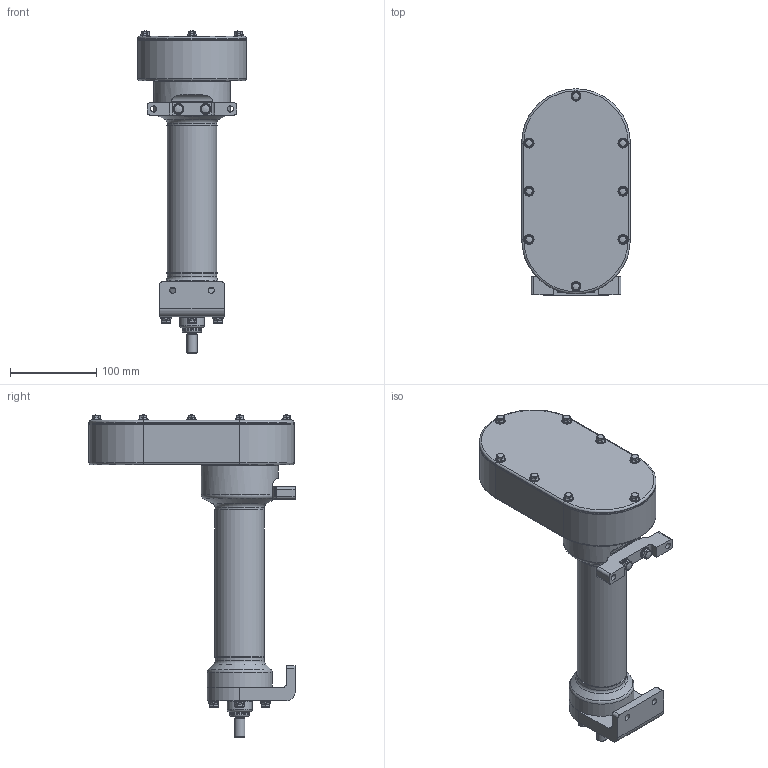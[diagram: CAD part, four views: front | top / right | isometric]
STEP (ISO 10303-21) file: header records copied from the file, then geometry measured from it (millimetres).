
FILE_DESCRIPTION (( 'STEP AP203' ), '1' );
FILE_NAME ('RSH22_BNM10_SM100.000_RS-472609-1.step', '2024-10-19T21:42:51', ( '' ), ( '' ), 'SwSTEP 2.0', 'SolidWorks 2024', '' );
FILE_SCHEMA (( 'CONFIG_CONTROL_DESIGN' ));
Products named in the file (5): tempJoin0_21229021_RSH22_BNM10_SM100.000_RS-472609-1; Base_RSH22_BNM10_SM100.000_RS-472609-1; RSH22_BNM10_SM100.000_RS-472609-1; tempJoin0_21229035_RSH22_BNM10_SM100.000_RS-472609-1; tempJoin0_21229008_RSH22_BNM10_SM100.000_RS-472609-1
Assembly tree (4 placements, depth 2):
  RSH22_BNM10_SM100.000_RS-472609-1
    tempJoin0_21229008_RSH22_BNM10_SM100.000_RS-472609-1
    tempJoin0_21229021_RSH22_BNM10_SM100.000_RS-472609-1
    tempJoin0_21229035_RSH22_BNM10_SM100.000_RS-472609-1
    Base_RSH22_BNM10_SM100.000_RS-472609-1
Bounding box: 125.73 x 238.32 x 372.84 mm (x, y, z)
Volume: 1702455.8 mm3; surface area: 401685.6 mm2
Topology: 5 solids, 46 shells, 3318 faces, 8511 edges, 5355 vertices
Faces by surface type: cylinder 1339, plane 913, bspline 648, torus 224, cone 179, sphere 15
Full cylindrical faces by diameter (mm): 3.242 x11, 4.2 x17, 4.254 x7, 4.5 x4, 5 x24, 5.41 x8, 5.5 x8, 5.7 x8, 6 x6, 6.35 x5, 6.477 x2, 6.756 x6, 6.8 x4, 7.01 x7, 7.137 x4, 7.62 x1, 7.949 x9, 8 x13, 8.449 x6, 8.5 x14, 9 x1, 10 x9, 10.8 x1, 11 x8, 11.113 x2, 11.125 x1, 11.189 x1, 11.85 x1, 11.9 x6, 12 x1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
Entity records: 121195 total; most frequent: CARTESIAN_POINT 45203, ORIENTED_EDGE 15722, DIRECTION 15412, EDGE_CURVE 7861, AXIS2_PLACEMENT_3D 6230, VERTEX_POINT 5185, EDGE_LOOP 4086, FACE_OUTER_BOUND 3679
